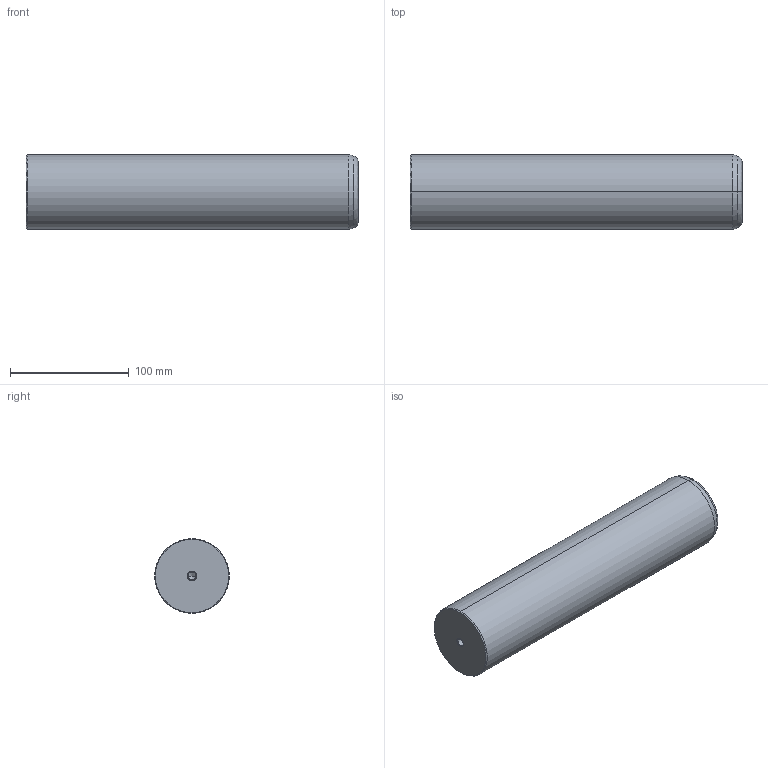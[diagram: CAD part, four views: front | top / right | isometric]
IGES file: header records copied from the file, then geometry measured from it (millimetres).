
Start section: START RECORD GO HERE.
Global section: file name: 720-63x280.igs; native system: DASSAULT SYSTEMES CATIA V5 R20 - www.3ds.com; preprocessor: CATIA Version 5 Release 20 ; author: Utente; organization: NB04-ASUS; date: 20201230.222915; units: millimetre
Bounding box: 280 x 63 x 63 mm (x, y, z)
Surface area: 61940.3 mm2 (no closed solid volume)
Topology: 0 solids, 0 shells, 22 faces, 108 edges, 104 vertices
Faces by surface type: revolution 20, plane 2
